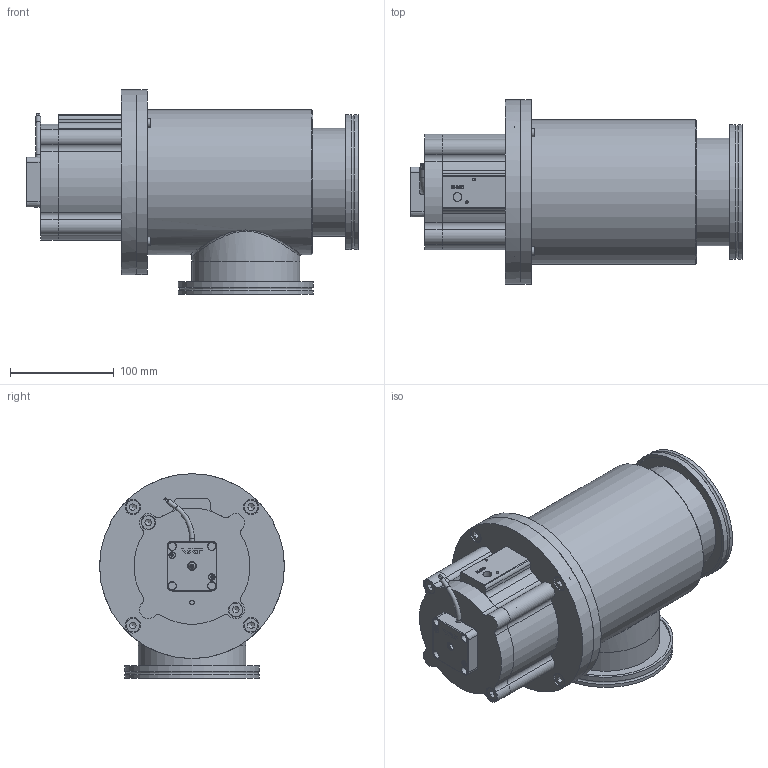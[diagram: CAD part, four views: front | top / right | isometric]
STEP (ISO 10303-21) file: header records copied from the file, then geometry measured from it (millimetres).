
FILE_DESCRIPTION(/* description */ (''),/* implementation_level */ '2;1');
FILE_NAME(/* name */ '1348249812_203.stp',/* time_stamp */ '2013-07-16T08:43:15+02:00',/* author */ (''),/* organization */ (''),/* preprocessor_version */ 'ST-DEVELOPER v11',/* originating_system */ 'SIEMENS PLM Software NX 7.5',/* authorisation */ '');
FILE_SCHEMA (('AP203_CONFIGURATION_CONTROLLED_3D_DESIGN_OF_MECHANICAL_PARTS_AND_ASSEMBLIES_MIM_LF'));
Length unit declared in the file: millimetre
Products named in the file (20): 517238; 513742; 517224; 517223; 517222; 517221; n-6121-026.2; 517625_18243ID; 421306; 233359; 236204_1.1; 544232; 542372; 228777; 476060; 542323_MODEL; 517218_MODEL; 522001_MODEL; 421285; 563620
Assembly tree (26 placements, depth 4):
  563620
    476060
    228777  x6
    542372
    421285
      236204_1.1  x2
      233359
      421306
    522001_MODEL
      517218_MODEL
        517221  x2
        517222
        517223
        517224
        513742
        517238
    544232
    542323_MODEL
      517625_18243ID
      n-6121-026.2
Bounding box: 319.7 x 178 x 197 mm (x, y, z)
Volume: 1144991.4 mm3; surface area: 459630.5 mm2
Topology: 34 solids, 34 shells, 719 faces, 1742 edges, 1143 vertices
Faces by surface type: plane 379, cylinder 223, cone 67, torus 22, bspline 19, extrusion 8, sphere 1
Full cylindrical faces by diameter (mm): 1.4 x4, 2.5 x5, 3 x6, 3.85 x1, 4.2 x2, 4.5 x2, 5.6 x2, 6.2 x2, 6.66 x6, 6.7 x6, 6.8 x8, 7.4 x1, 8 x13, 8.15 x2, 8.4 x1, 8.566 x1, 9 x8, 13 x6, 14 x2, 15 x6, 21 x1, 23.011 x2, 23.3 x1, 29.4 x1, 30 x1, 39.5 x1, 40 x1, 44.4 x1, 50 x1, 100 x6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
Entity records: 20857 total; most frequent: CARTESIAN_POINT 4635, DIRECTION 2874, ORIENTED_EDGE 2566, EDGE_CURVE 1283, AXIS2_PLACEMENT_3D 1117, VERTEX_POINT 935, EDGE_LOOP 871, VECTOR 640
